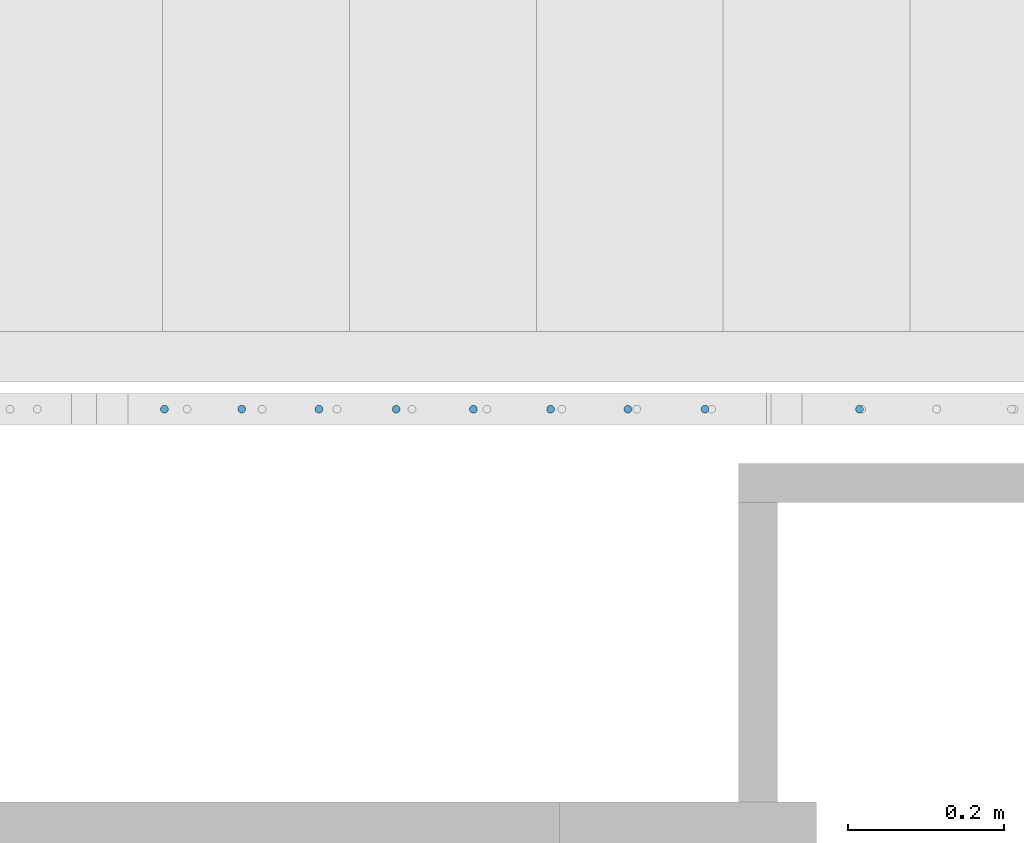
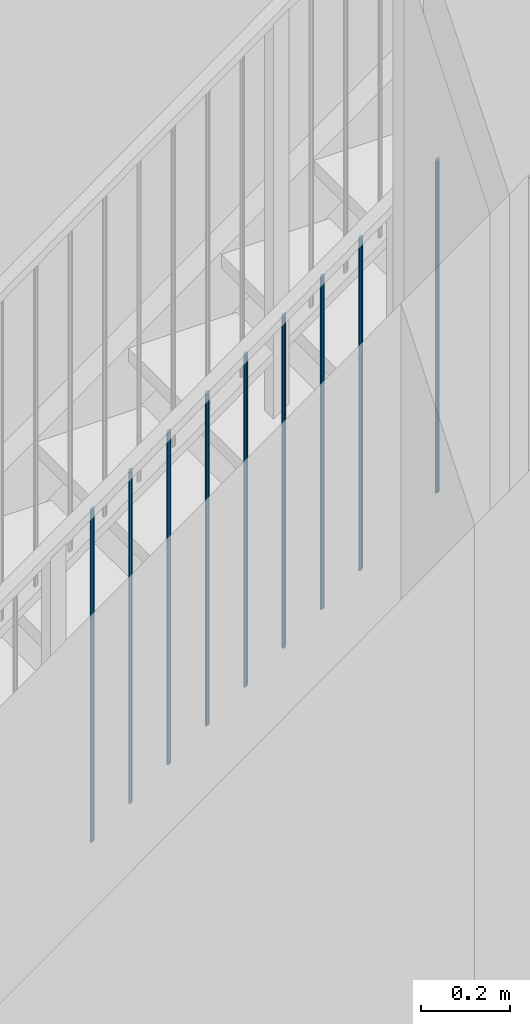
# One storey, part 15 of 135: 9 members, 1 element without a shape of its own.
"""IFC2X3 building model written with IfcOpenShell, lengths in millimetres."""

from ifc_helpers import new_model, entity, si_unit, converted_unit, derived_unit, money_unit, direction, frame, origin_with_axes, place, context, subcontext, project, spatial, faceted_brep, source, transform, mapped, material, type_object, type_shapes, element, aggregate, save


model = new_model("IFC2X3")

# Units and contexts
model_context = context("Model", 3, precision=0.01, world=origin_with_axes(), true_north=direction((0.0, 1.0)))
body_context = subcontext(model_context, "Body", "Model", "MODEL_VIEW")
ifc_project = project(units=[si_unit("LENGTHUNIT", "METRE", prefix="MILLI"), si_unit("AREAUNIT", "SQUARE_METRE"), si_unit("VOLUMEUNIT", "CUBIC_METRE"), converted_unit("PLANEANGLEUNIT", "DEGREE", entity("IfcPlaneAngleMeasure", 0.0174532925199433), si_unit("PLANEANGLEUNIT", "RADIAN"), dimensions=[0, 0, 0, 0, 0, 0, 0]), money_unit("EUR"), converted_unit("TIMEUNIT", "Year", entity("IfcTimeMeasure", 31557600.0), si_unit("TIMEUNIT", "SECOND"), dimensions=[0, 0, 1, 0, 0, 0, 0]), si_unit("MASSUNIT", "GRAM", prefix="KILO"), si_unit("THERMODYNAMICTEMPERATUREUNIT", "DEGREE_CELSIUS"), si_unit("LUMINOUSINTENSITYUNIT", "LUMEN"), si_unit("ENERGYUNIT", "JOULE", prefix="MEGA"), derived_unit("THERMALCONDUCTANCEUNIT", [(si_unit("POWERUNIT", "WATT"), 1), (si_unit("LENGTHUNIT", "METRE"), -1), (si_unit("THERMODYNAMICTEMPERATUREUNIT", "KELVIN"), -1)]), derived_unit("SPECIFICHEATCAPACITYUNIT", [(si_unit("ENERGYUNIT", "JOULE"), 1), (si_unit("MASSUNIT", "GRAM", prefix="KILO"), -1), (si_unit("THERMODYNAMICTEMPERATUREUNIT", "KELVIN"), -1)]), derived_unit("MASSDENSITYUNIT", [(si_unit("MASSUNIT", "GRAM", prefix="KILO"), 1), (si_unit("VOLUMEUNIT", "CUBIC_METRE"), -1)])], contexts=[model_context])

# Site, building, storey
site_placement = place(None, origin_with_axes())
site = spatial("IfcSite", under=ifc_project, at=site_placement, Name="Site", CompositionType="ELEMENT")
building_placement = place(site_placement, origin_with_axes())
building = spatial("IfcBuilding", under=site, at=building_placement, Name="Naam gebouw", CompositionType="ELEMENT")
storey_placement = place(building_placement, origin_with_axes())
storey = spatial("IfcBuildingStorey", under=building, at=storey_placement, Name="Begane grond N", CompositionType="ELEMENT", Elevation=0.0)

# Railing, members
railing_type = type_object("IfcRailingType", Name="Railing Type", PredefinedType="NOTDEFINED")
railing_placement = place(storey_placement, frame((56236.62159597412, 21185.9124251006, 157.4646725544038), z_axis=(0.0, 0.0, 1.0), x_axis=(1.0, 0.0, 0.0)))
railing = element("IfcRailing", 1, at=railing_placement, inside=storey, type_object=railing_type, Name="_Reling-x", PredefinedType="NOTDEFINED")
ifc_material = material(Name="Metaal - Staal C")
member_type = type_object("IfcMemberType", Name="IfcMember", PredefinedType="MEMBER")
shared_shape = source(origin_with_axes(), body_context, "Body", "Brep", [
    faceted_brep([(0.0, -4.999999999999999, -3.602430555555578), (0.8682408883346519, -4.924038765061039, -3.547701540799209), (0.8682408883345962, -4.924038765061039, 903.9522984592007), (0.0, -4.999999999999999, 903.8975694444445), (-0.8682408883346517, -4.924038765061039, -3.547701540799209), (-1.710100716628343, -4.698463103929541, -3.385177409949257), (-2.500000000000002, -4.330127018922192, -3.119796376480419), (-3.213938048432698, -3.830222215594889, -2.759621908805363), (-3.830222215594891, -3.213938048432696, -2.315597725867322), (-4.330127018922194, -2.5, -1.80121527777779), (-4.698463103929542, -1.710100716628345, -1.232103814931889), (-4.924038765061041, -0.8682408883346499, -0.6255555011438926), (-5.0, 0.0, 0.0), (-4.92403876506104, 0.8682408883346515, 0.6255555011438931), (-4.698463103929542, 1.710100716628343, 1.232103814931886), (-4.330127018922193, 2.500000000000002, 1.801215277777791), (-3.83022221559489, 3.213938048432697, 2.315597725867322), (-3.213938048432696, 3.83022221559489, 2.759621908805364), (-2.5, 4.330127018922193, 3.119796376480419), (-1.710100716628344, 4.698463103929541, 3.385177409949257), (-0.8682408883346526, 4.924038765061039, 3.547701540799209), (0.0, 4.999999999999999, 3.602430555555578), (0.8682408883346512, 4.924038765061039, 3.547701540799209), (1.710100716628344, 4.698463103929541, 3.385177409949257), (2.5, 4.330127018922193, 3.119796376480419), (3.213938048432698, 3.830222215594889, 2.759621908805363), (3.83022221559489, 3.213938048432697, 2.315597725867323), (4.330127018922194, 2.499999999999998, 1.801215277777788), (4.698463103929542, 1.710100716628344, 1.232103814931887), (4.92403876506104, 0.8682408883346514, 0.6255555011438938), (5.0, 0.0, 0.0), (4.92403876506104, -0.868240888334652, -0.6255555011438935), (4.698463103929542, -1.710100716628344, -1.232103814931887), (4.330127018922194, -2.5, -1.801215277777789), (3.83022221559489, -3.213938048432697, -2.315597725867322), (3.213938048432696, -3.83022221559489, -2.759621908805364), (2.5, -4.330127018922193, -3.119796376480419), (1.710100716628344, -4.698463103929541, -3.385177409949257), (1.710100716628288, -4.698463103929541, 904.1148225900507), (2.499999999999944, -4.330127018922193, 904.3802036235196), (3.213938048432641, -3.83022221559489, 904.7403780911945), (3.830222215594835, -3.213938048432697, 905.1844022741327), (4.330127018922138, -2.5, 905.6987847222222), (4.698463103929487, -1.710100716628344, 906.2678961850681), (4.924038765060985, -0.868240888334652, 906.8744444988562), (4.999999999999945, 0.0, 907.5), (4.924038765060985, 0.8682408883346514, 908.1255555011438), (4.698463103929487, 1.710100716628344, 908.7321038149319), (4.330127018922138, 2.499999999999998, 909.3012152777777), (3.830222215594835, 3.213938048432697, 909.8155977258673), (3.213938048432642, 3.830222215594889, 910.2596219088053), (2.499999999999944, 4.330127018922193, 910.6197963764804), (1.710100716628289, 4.698463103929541, 910.8851774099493), (0.8682408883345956, 4.924038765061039, 911.0477015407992), (0.0, 4.999999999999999, 911.1024305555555), (-0.8682408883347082, 4.924038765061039, 911.0477015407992), (-1.710100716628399, 4.698463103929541, 910.8851774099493), (-2.500000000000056, 4.330127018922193, 910.6197963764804), (-3.213938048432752, 3.83022221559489, 910.2596219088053), (-3.830222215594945, 3.213938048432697, 909.8155977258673), (-4.330127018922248, 2.500000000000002, 909.3012152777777), (-4.698463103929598, 1.710100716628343, 908.7321038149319), (-4.924038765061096, 0.8682408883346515, 908.1255555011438), (-5.000000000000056, 0.0, 907.5), (-4.924038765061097, -0.8682408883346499, 906.8744444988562), (-4.698463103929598, -1.710100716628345, 906.2678961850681), (-4.330127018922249, -2.5, 905.6987847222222), (-3.830222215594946, -3.213938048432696, 905.1844022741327), (-3.213938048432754, -3.830222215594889, 904.7403780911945), (-2.500000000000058, -4.330127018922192, 904.3802036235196), (-1.710100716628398, -4.698463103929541, 904.1148225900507), (-0.8682408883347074, -4.924038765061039, 903.9522984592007)], [[[0, 1, 2, 3]], [[0, 4, 5, 6, 7, 8, 9, 10, 11, 12, 13, 14, 15, 16, 17, 18, 19, 20, 21, 22, 23, 24, 25, 26, 27, 28, 29, 30, 31, 32, 33, 34, 35, 36, 37, 1]], [[1, 37, 38, 2]], [[3, 2, 38, 39, 40, 41, 42, 43, 44, 45, 46, 47, 48, 49, 50, 51, 52, 53, 54, 55, 56, 57, 58, 59, 60, 61, 62, 63, 64, 65, 66, 67, 68, 69, 70, 71]], [[4, 0, 3, 71]], [[5, 4, 71, 70]], [[6, 5, 70, 69]], [[7, 6, 69, 68]], [[8, 7, 68, 67]], [[9, 8, 67, 66]], [[10, 9, 66, 65]], [[11, 10, 65, 64]], [[12, 11, 64, 63]], [[13, 12, 63, 62]], [[14, 13, 62, 61]], [[15, 14, 61, 60]], [[16, 15, 60, 59]], [[17, 16, 59, 58]], [[18, 17, 58, 57]], [[19, 18, 57, 56]], [[20, 19, 56, 55]], [[21, 20, 55, 54]], [[22, 21, 54, 53]], [[23, 22, 53, 52]], [[24, 23, 52, 51]], [[25, 24, 51, 50]], [[26, 25, 50, 49]], [[27, 26, 49, 48]], [[28, 27, 48, 47]], [[29, 28, 47, 46]], [[30, 29, 46, 45]], [[31, 30, 45, 44]], [[32, 31, 44, 43]], [[33, 32, 43, 42]], [[34, 33, 42, 41]], [[35, 34, 41, 40]], [[36, 35, 40, 39]], [[37, 36, 39, 38]]]),
])
type_shapes(member_type, [shared_shape])
member_1_placement = place(railing_placement, frame((855.6143242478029, -24.99999999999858, 784.892199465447), z_axis=(0.0, 0.0, 1.0), x_axis=(1.0, 0.0, 0.0)))
member_1 = element("IfcMember", 2, at=member_1_placement, type_object=member_type, material=ifc_material, Name="_Spijlen-x", ObjectType="MEMBER", context=body_context, shape_type="MappedRepresentation", body=[
    mapped(shared_shape, transform((0.0, 0.0, 0.0), x_axis=(0.0, -1.0, 0.0), y_axis=(1.0, 0.0, 0.0), z_axis=(0.0, 0.0, 1.0))),
])
member_2_placement = place(railing_placement, frame((954.8379162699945, -24.99999999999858, 856.3814194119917), z_axis=(0.0, 0.0, 1.0), x_axis=(1.0, 0.0, 0.0)))
member_2 = element("IfcMember", 3, at=member_2_placement, type_object=member_type, material=ifc_material, Name="_Spijlen-x", ObjectType="MEMBER", context=body_context, shape_type="MappedRepresentation", body=[
    mapped(shared_shape, transform((0.0, 0.0, 0.0), x_axis=(0.0, -1.0, 0.0), y_axis=(1.0, 0.0, 0.0), z_axis=(0.0, 0.0, 1.0))),
])
member_3_placement = place(railing_placement, frame((1054.061508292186, -24.99999999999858, 927.8706393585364), z_axis=(0.0, 0.0, 1.0), x_axis=(1.0, 0.0, 0.0)))
member_3 = element("IfcMember", 4, at=member_3_placement, type_object=member_type, material=ifc_material, Name="_Spijlen-x", ObjectType="MEMBER", context=body_context, shape_type="MappedRepresentation", body=[
    mapped(shared_shape, transform((0.0, 0.0, 0.0), x_axis=(0.0, -1.0, 0.0), y_axis=(1.0, 0.0, 0.0), z_axis=(0.0, 0.0, 1.0))),
])
member_4_placement = place(railing_placement, frame((1252.508692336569, -24.99999999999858, 1070.849079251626), z_axis=(0.0, 0.0, 1.0), x_axis=(1.0, 0.0, 0.0)))
member_4 = element("IfcMember", 5, at=member_4_placement, type_object=member_type, material=ifc_material, Name="_Spijlen-x", ObjectType="MEMBER", context=body_context, shape_type="MappedRepresentation", body=[
    mapped(shared_shape, transform((0.0, 0.0, 0.0), x_axis=(0.0, -1.0, 0.0), y_axis=(1.0, 0.0, 0.0), z_axis=(0.0, 0.0, 1.0))),
])
member_5_placement = place(railing_placement, frame((1153.285100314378, -24.99999999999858, 999.359859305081), z_axis=(0.0, 0.0, 1.0), x_axis=(1.0, 0.0, 0.0)))
member_5 = element("IfcMember", 6, at=member_5_placement, type_object=member_type, material=ifc_material, Name="_Spijlen-x", ObjectType="MEMBER", context=body_context, shape_type="MappedRepresentation", body=[
    mapped(shared_shape, transform((0.0, 0.0, 0.0), x_axis=(0.0, -1.0, 0.0), y_axis=(1.0, 0.0, 0.0), z_axis=(0.0, 0.0, 1.0))),
])
member_6_placement = place(railing_placement, frame((1351.732284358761, -24.99999999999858, 1142.338299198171), z_axis=(0.0, 0.0, 1.0), x_axis=(1.0, 0.0, 0.0)))
member_6 = element("IfcMember", 7, at=member_6_placement, type_object=member_type, material=ifc_material, Name="_Spijlen-x", ObjectType="MEMBER", context=body_context, shape_type="MappedRepresentation", body=[
    mapped(shared_shape, transform((0.0, 0.0, 0.0), x_axis=(0.0, -1.0, 0.0), y_axis=(1.0, 0.0, 0.0), z_axis=(0.0, 0.0, 1.0))),
])
member_7_placement = place(railing_placement, frame((1450.955876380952, -24.99999999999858, 1213.827519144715), z_axis=(0.0, 0.0, 1.0), x_axis=(1.0, 0.0, 0.0)))
member_7 = element("IfcMember", 8, at=member_7_placement, type_object=member_type, material=ifc_material, Name="_Spijlen-x", ObjectType="MEMBER", context=body_context, shape_type="MappedRepresentation", body=[
    mapped(shared_shape, transform((0.0, 0.0, 0.0), x_axis=(0.0, -1.0, 0.0), y_axis=(1.0, 0.0, 0.0), z_axis=(0.0, 0.0, 1.0))),
])
member_8_placement = place(railing_placement, frame((1550.179468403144, -24.99999999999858, 1285.31673909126), z_axis=(0.0, 0.0, 1.0), x_axis=(1.0, 0.0, 0.0)))
member_8 = element("IfcMember", 9, at=member_8_placement, type_object=member_type, material=ifc_material, Name="_Spijlen-x", ObjectType="MEMBER", context=body_context, shape_type="MappedRepresentation", body=[
    mapped(shared_shape, transform((0.0, 0.0, 0.0), x_axis=(0.0, -1.0, 0.0), y_axis=(1.0, 0.0, 0.0), z_axis=(0.0, 0.0, 1.0))),
])
member_9_placement = place(railing_placement, frame((1748.626652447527, -24.99999999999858, 1428.29517898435), z_axis=(0.0, 0.0, 1.0), x_axis=(1.0, 0.0, 0.0)))
member_9 = element("IfcMember", 10, at=member_9_placement, type_object=member_type, material=ifc_material, Name="_Spijlen-x", ObjectType="MEMBER", context=body_context, shape_type="MappedRepresentation", body=[
    mapped(shared_shape, transform((0.0, 0.0, 0.0), x_axis=(0.0, -1.0, 0.0), y_axis=(1.0, 0.0, 0.0), z_axis=(0.0, 0.0, 1.0))),
])
aggregate(railing, [member_1, member_2, member_3, member_4, member_5, member_6, member_7, member_8, member_9])

save(model, "model.ifc")
